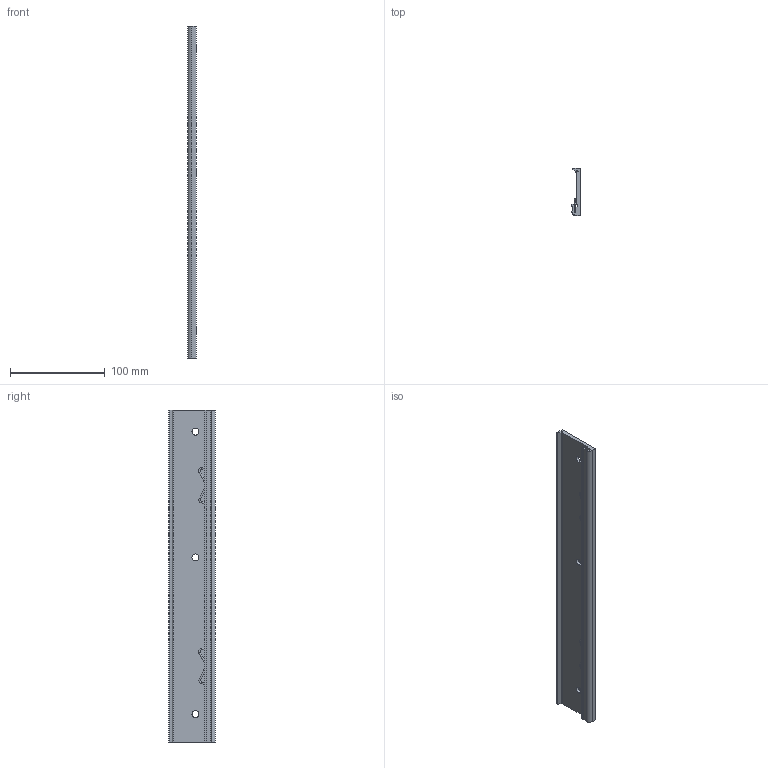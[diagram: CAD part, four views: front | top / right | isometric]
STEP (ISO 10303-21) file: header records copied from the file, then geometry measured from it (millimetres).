
FILE_DESCRIPTION((''),'2;1');
FILE_NAME('CU_NI-9916','2018-03-02T',('dkendric'),(''),'CREO PARAMETRIC BY PTC INC, 2015380','CREO PARAMETRIC BY PTC INC, 2015380','');
FILE_SCHEMA(('CONFIG_CONTROL_DESIGN'));
Length unit declared in the file: inch
Products named in the file (1): CU_NI-9916
Bounding box: 8.97 x 49.33 x 350.01 mm (x, y, z)
Volume: 74251.5 mm3; surface area: 51731.6 mm2
Topology: 1 solids, 1 shells, 78 faces, 190 edges, 116 vertices
Faces by surface type: cylinder 33, plane 25, torus 20
Entity records: 2698 total; most frequent: CARTESIAN_POINT 792, DIRECTION 406, ORIENTED_EDGE 380, EDGE_CURVE 190, AXIS2_PLACEMENT_3D 158, VERTEX_POINT 116, VECTOR 90, LINE 90
